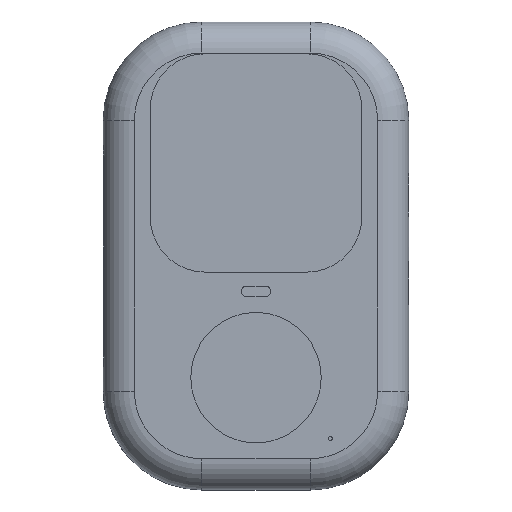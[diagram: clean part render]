
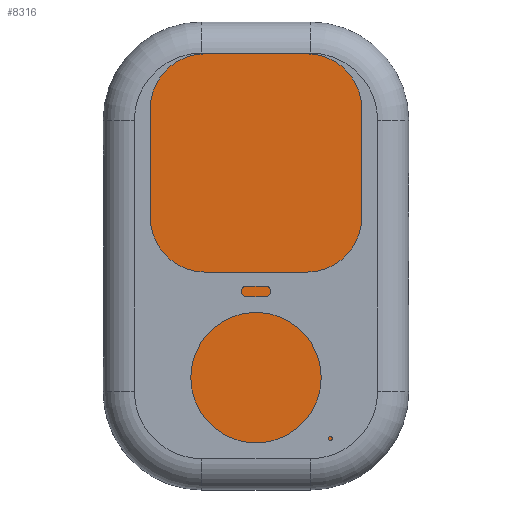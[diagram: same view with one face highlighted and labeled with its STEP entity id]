
A CAD part, top view. The second image highlights one B-rep face of the part: STEP entity #8316.
In plain terms, the highlighted planar face has unit normal (0, 0, 1).
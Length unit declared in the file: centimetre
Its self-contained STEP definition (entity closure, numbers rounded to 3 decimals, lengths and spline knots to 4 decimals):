
#152=CIRCLE('',#8780,2.2);
#153=CIRCLE('',#8781,2.2);
#154=CIRCLE('',#8782,2.2);
#155=CIRCLE('',#8783,2.2);
#592=FACE_OUTER_BOUND('',#1032,.T.);
#1032=EDGE_LOOP('',(#6943,#6944,#6945,#6946,#6947,#6948,#6949,#6950));
#2010=LINE('',#12965,#3042);
#2011=LINE('',#12969,#3043);
#2012=LINE('',#12973,#3044);
#2013=LINE('',#12977,#3045);
#3042=VECTOR('',#10508,1.);
#3043=VECTOR('',#10511,1.);
#3044=VECTOR('',#10514,1.);
#3045=VECTOR('',#10517,1.);
#3813=VERTEX_POINT('',#12963);
#3814=VERTEX_POINT('',#12964);
#3815=VERTEX_POINT('',#12966);
#3816=VERTEX_POINT('',#12968);
#3817=VERTEX_POINT('',#12970);
#3818=VERTEX_POINT('',#12972);
#3819=VERTEX_POINT('',#12974);
#3820=VERTEX_POINT('',#12976);
#4895=EDGE_CURVE('',#3813,#3814,#2010,.T.);
#4896=EDGE_CURVE('',#3814,#3815,#152,.T.);
#4897=EDGE_CURVE('',#3815,#3816,#2011,.T.);
#4898=EDGE_CURVE('',#3816,#3817,#153,.T.);
#4899=EDGE_CURVE('',#3817,#3818,#2012,.T.);
#4900=EDGE_CURVE('',#3818,#3819,#154,.T.);
#4901=EDGE_CURVE('',#3819,#3820,#2013,.T.);
#4902=EDGE_CURVE('',#3820,#3813,#155,.T.);
#6943=ORIENTED_EDGE('',*,*,#4895,.T.);
#6944=ORIENTED_EDGE('',*,*,#4896,.T.);
#6945=ORIENTED_EDGE('',*,*,#4897,.T.);
#6946=ORIENTED_EDGE('',*,*,#4898,.T.);
#6947=ORIENTED_EDGE('',*,*,#4899,.T.);
#6948=ORIENTED_EDGE('',*,*,#4900,.T.);
#6949=ORIENTED_EDGE('',*,*,#4901,.T.);
#6950=ORIENTED_EDGE('',*,*,#4902,.T.);
#7957=PLANE('',#8779);
#8316=ADVANCED_FACE('',(#592),#7957,.T.);
#8779=AXIS2_PLACEMENT_3D('',#12962,#10506,#10507);
#8780=AXIS2_PLACEMENT_3D('',#12967,#10509,#10510);
#8781=AXIS2_PLACEMENT_3D('',#12971,#10512,#10513);
#8782=AXIS2_PLACEMENT_3D('',#12975,#10515,#10516);
#8783=AXIS2_PLACEMENT_3D('',#12978,#10518,#10519);
#10506=DIRECTION('center_axis',(0.,0.,1.));
#10507=DIRECTION('ref_axis',(1.,0.,0.));
#10508=DIRECTION('',(0.,-1.,0.));
#10509=DIRECTION('center_axis',(0.,0.,1.));
#10510=DIRECTION('ref_axis',(-0.707,-0.707,0.));
#10511=DIRECTION('',(1.,0.,0.));
#10512=DIRECTION('center_axis',(0.,0.,1.));
#10513=DIRECTION('ref_axis',(0.707,-0.707,0.));
#10514=DIRECTION('',(0.,1.,0.));
#10515=DIRECTION('center_axis',(0.,0.,1.));
#10516=DIRECTION('ref_axis',(0.707,0.707,0.));
#10517=DIRECTION('',(-1.,0.,0.));
#10518=DIRECTION('center_axis',(0.,0.,1.));
#10519=DIRECTION('ref_axis',(-0.707,0.707,0.));
#12962=CARTESIAN_POINT('Origin',(0.,0.,-1.32));
#12963=CARTESIAN_POINT('',(-3.8,4.,-1.32));
#12964=CARTESIAN_POINT('',(-3.8,-4.,-1.32));
#12965=CARTESIAN_POINT('',(-3.8,3.4,-1.32));
#12966=CARTESIAN_POINT('',(-1.6,-6.2,-1.32));
#12967=CARTESIAN_POINT('Origin',(-1.6,-4.,-1.32));
#12968=CARTESIAN_POINT('',(1.6,-6.2,-1.32));
#12969=CARTESIAN_POINT('',(-2.2,-6.2,-1.32));
#12970=CARTESIAN_POINT('',(3.8,-4.,-1.32));
#12971=CARTESIAN_POINT('Origin',(1.6,-4.,-1.32));
#12972=CARTESIAN_POINT('',(3.8,4.,-1.32));
#12973=CARTESIAN_POINT('',(3.8,-3.4,-1.32));
#12974=CARTESIAN_POINT('',(1.6,6.2,-1.32));
#12975=CARTESIAN_POINT('Origin',(1.6,4.,-1.32));
#12976=CARTESIAN_POINT('',(-1.6,6.2,-1.32));
#12977=CARTESIAN_POINT('',(2.2,6.2,-1.32));
#12978=CARTESIAN_POINT('Origin',(-1.6,4.,-1.32));
